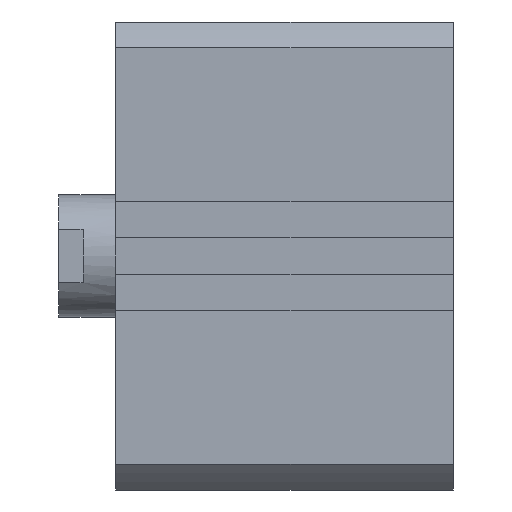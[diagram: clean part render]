
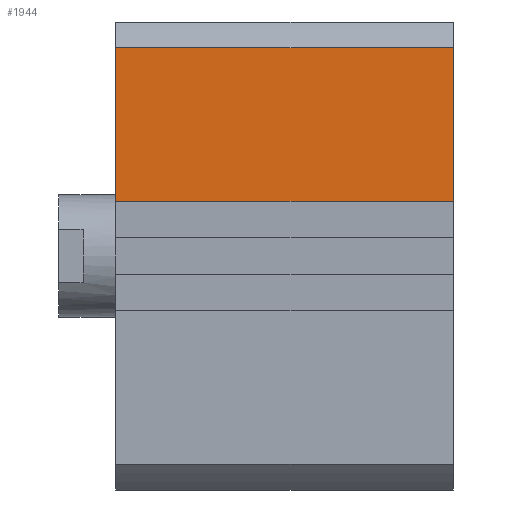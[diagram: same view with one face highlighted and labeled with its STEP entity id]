
A CAD part, left-side view. The second image highlights one B-rep face of the part: STEP entity #1944.
In plain terms, the highlighted planar face has unit normal (-1, 0, 0).
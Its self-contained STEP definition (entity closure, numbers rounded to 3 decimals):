
#171 = LINE ( 'NONE', #2152, #481 ) ;
#274 = ORIENTED_EDGE ( 'NONE', *, *, #1559, .F. ) ;
#321 = ORIENTED_EDGE ( 'NONE', *, *, #1262, .F. ) ;
#405 = VECTOR ( 'NONE', #1153, 1000. ) ;
#448 = LINE ( 'NONE', #753, #2386 ) ;
#466 = DIRECTION ( 'NONE',  ( 0., 1., 0. ) ) ;
#469 = ORIENTED_EDGE ( 'NONE', *, *, #3238, .T. ) ;
#481 = VECTOR ( 'NONE', #1167, 1000. ) ;
#634 = DIRECTION ( 'NONE',  ( -1., 0., 0. ) ) ;
#753 = CARTESIAN_POINT ( 'NONE',  ( -57.5, 0., 0. ) ) ;
#914 = CARTESIAN_POINT ( 'NONE',  ( -57.5, -83., 0. ) ) ;
#931 = VECTOR ( 'NONE', #466, 1000. ) ;
#992 = VERTEX_POINT ( 'NONE', #1497 ) ;
#999 = DIRECTION ( 'NONE',  ( 0., 0., 1. ) ) ;
#1153 = DIRECTION ( 'NONE',  ( 0., 1., 0. ) ) ;
#1167 = DIRECTION ( 'NONE',  ( 0., 0., 1. ) ) ;
#1169 = LINE ( 'NONE', #3216, #405 ) ;
#1170 = PLANE ( 'NONE',  #3310 ) ;
#1262 = EDGE_CURVE ( 'NONE', #2534, #992, #3323, .T. ) ;
#1292 = CARTESIAN_POINT ( 'NONE',  ( -57.5, 0., 51.213 ) ) ;
#1497 = CARTESIAN_POINT ( 'NONE',  ( -57.5, 0., 13.5 ) ) ;
#1559 = EDGE_CURVE ( 'NONE', #992, #2337, #448, .T. ) ;
#1738 = FACE_OUTER_BOUND ( 'NONE', #3262, .T. ) ;
#1926 = DIRECTION ( 'NONE',  ( 0., 0., 1. ) ) ;
#1944 = ADVANCED_FACE ( 'NONE', ( #1738 ), #1170, .T. ) ;
#2152 = CARTESIAN_POINT ( 'NONE',  ( -57.5, -83., 0. ) ) ;
#2337 = VERTEX_POINT ( 'NONE', #1292 ) ;
#2386 = VECTOR ( 'NONE', #999, 1000. ) ;
#2534 = VERTEX_POINT ( 'NONE', #3264 ) ;
#2796 = CARTESIAN_POINT ( 'NONE',  ( -57.5, -83., 13.5 ) ) ;
#2930 = ORIENTED_EDGE ( 'NONE', *, *, #3311, .T. ) ;
#2950 = CARTESIAN_POINT ( 'NONE',  ( -57.5, -83., 51.213 ) ) ;
#3216 = CARTESIAN_POINT ( 'NONE',  ( -57.5, -83., 51.213 ) ) ;
#3238 = EDGE_CURVE ( 'NONE', #2534, #3297, #171, .T. ) ;
#3262 = EDGE_LOOP ( 'NONE', ( #274, #321, #469, #2930 ) ) ;
#3264 = CARTESIAN_POINT ( 'NONE',  ( -57.5, -83., 13.5 ) ) ;
#3297 = VERTEX_POINT ( 'NONE', #2950 ) ;
#3310 = AXIS2_PLACEMENT_3D ( 'NONE', #914, #634, #1926 ) ;
#3311 = EDGE_CURVE ( 'NONE', #3297, #2337, #1169, .T. ) ;
#3323 = LINE ( 'NONE', #2796, #931 ) ;
